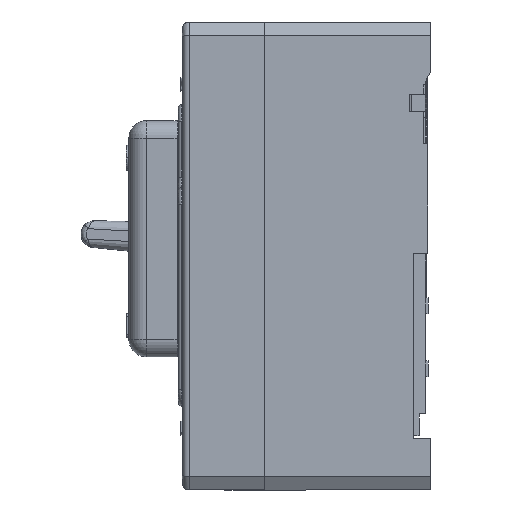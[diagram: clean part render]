
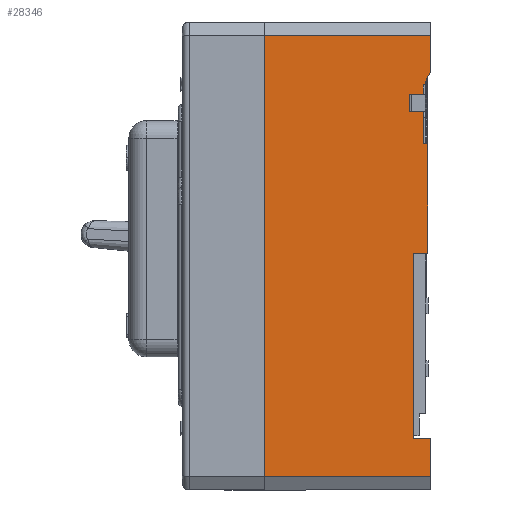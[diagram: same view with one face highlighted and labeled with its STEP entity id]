
A CAD part, left-side view. The second image highlights one B-rep face of the part: STEP entity #28346.
In plain terms, the highlighted planar face has unit normal (-1, 0, 0).
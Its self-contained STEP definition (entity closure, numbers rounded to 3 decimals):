
#1372 = DIRECTION ( 'NONE',  ( 0., 1., 0. ) ) ;
#1373 = VECTOR ( 'NONE', #1372, 1000. ) ;
#1374 = CARTESIAN_POINT ( 'NONE',  ( -63.043, 35.756, 1. ) ) ;
#1376 = LINE ( 'NONE', #1374, #1373 ) ;
#1392 = CARTESIAN_POINT ( 'NONE',  ( -63.043, 42.266, 1. ) ) ;
#1472 = CARTESIAN_POINT ( 'NONE',  ( -63.043, 42.266, -68.03 ) ) ;
#1473 = DIRECTION ( 'NONE',  ( 0., 0., -1. ) ) ;
#1474 = VECTOR ( 'NONE', #1473, 1000. ) ;
#1475 = CARTESIAN_POINT ( 'NONE',  ( -63.043, 42.266, 1. ) ) ;
#1476 = LINE ( 'NONE', #1475, #1474 ) ;
#1509 = CARTESIAN_POINT ( 'NONE',  ( -63.043, 36.896, 1. ) ) ;
#1647 = CARTESIAN_POINT ( 'NONE',  ( -63.043, 38.596, 41.91 ) ) ;
#1777 = DIRECTION ( 'NONE',  ( 0., 0., -1. ) ) ;
#1778 = VECTOR ( 'NONE', #1777, 1000. ) ;
#1779 = CARTESIAN_POINT ( 'NONE',  ( -63.043, 38.596, 53.72 ) ) ;
#1780 = LINE ( 'NONE', #1779, #1778 ) ;
#1781 = CARTESIAN_POINT ( 'NONE',  ( -63.043, 38.596, 53.72 ) ) ;
#1783 = DIRECTION ( 'NONE',  ( 0., 0., -1. ) ) ;
#1784 = VECTOR ( 'NONE', #1783, 1000. ) ;
#1785 = CARTESIAN_POINT ( 'NONE',  ( -63.043, 36.896, 41.91 ) ) ;
#1786 = LINE ( 'NONE', #1785, #1784 ) ;
#1791 = DIRECTION ( 'NONE',  ( 0., -1., 0. ) ) ;
#1792 = VECTOR ( 'NONE', #1791, 1000. ) ;
#1793 = CARTESIAN_POINT ( 'NONE',  ( -63.043, 43.916, 60.23 ) ) ;
#1794 = LINE ( 'NONE', #1793, #1792 ) ;
#1795 = CARTESIAN_POINT ( 'NONE',  ( -63.043, 38.596, 60.23 ) ) ;
#1843 = CARTESIAN_POINT ( 'NONE',  ( -63.043, 36.896, 41.91 ) ) ;
#1868 = DIRECTION ( 'NONE',  ( 0., -1., 0. ) ) ;
#1869 = VECTOR ( 'NONE', #1868, 1000. ) ;
#1870 = CARTESIAN_POINT ( 'NONE',  ( -63.043, 38.596, 41.91 ) ) ;
#1871 = LINE ( 'NONE', #1870, #1869 ) ;
#2064 = DIRECTION ( 'NONE',  ( 0., 0., -1. ) ) ;
#2065 = VECTOR ( 'NONE', #2064, 1000. ) ;
#2066 = CARTESIAN_POINT ( 'NONE',  ( -63.043, 43.916, 60.23 ) ) ;
#2067 = LINE ( 'NONE', #2066, #2065 ) ;
#2082 = DIRECTION ( 'NONE',  ( 0., -1., 0. ) ) ;
#2083 = VECTOR ( 'NONE', #2082, 1000. ) ;
#2084 = CARTESIAN_POINT ( 'NONE',  ( -63.043, 43.916, 53.72 ) ) ;
#2085 = LINE ( 'NONE', #2084, #2083 ) ;
#2086 = CARTESIAN_POINT ( 'NONE',  ( -63.043, 43.916, 60.23 ) ) ;
#2087 = CARTESIAN_POINT ( 'NONE',  ( -63.043, 43.916, 53.72 ) ) ;
#2108 = CARTESIAN_POINT ( 'NONE',  ( -63.043, 38.596, 63.82 ) ) ;
#2109 = DIRECTION ( 'NONE',  ( 0., 0., -1. ) ) ;
#2110 = VECTOR ( 'NONE', #2109, 1000. ) ;
#2111 = CARTESIAN_POINT ( 'NONE',  ( -63.043, 38.596, 63.82 ) ) ;
#2112 = LINE ( 'NONE', #2111, #2110 ) ;
#2124 = DIRECTION ( 'NONE',  ( 0., -1., 0. ) ) ;
#2125 = VECTOR ( 'NONE', #2124, 1000. ) ;
#2126 = CARTESIAN_POINT ( 'NONE',  ( -63.043, 38.596, 63.82 ) ) ;
#2127 = LINE ( 'NONE', #2126, #2125 ) ;
#2138 = CARTESIAN_POINT ( 'NONE',  ( -63.043, 37.826, 63.82 ) ) ;
#10164 = DIRECTION ( 'NONE',  ( 0., 0., -1. ) ) ;
#10165 = VECTOR ( 'NONE', #10164, 1000. ) ;
#10166 = CARTESIAN_POINT ( 'NONE',  ( -63.043, 37.826, -87.243 ) ) ;
#10167 = LINE ( 'NONE', #10166, #10165 ) ;
#10355 = EDGE_CURVE ( 'NONE', #21392, #28157, #20533, .T. ) ;
#11112 = CARTESIAN_POINT ( 'NONE',  ( -63.043, 37.826, 65.225 ) ) ;
#11441 = CARTESIAN_POINT ( 'NONE',  ( -63.043, 35.756, 68.81 ) ) ;
#11442 = DIRECTION ( 'NONE',  ( 0., 0.5, -0.866 ) ) ;
#11443 = VECTOR ( 'NONE', #11442, 1000. ) ;
#11444 = CARTESIAN_POINT ( 'NONE',  ( -63.043, 103.329, -48.229 ) ) ;
#11445 = LINE ( 'NONE', #11444, #11443 ) ;
#12273 = CARTESIAN_POINT ( 'NONE',  ( -63.043, 97.826, 82.242 ) ) ;
#12274 = DIRECTION ( 'NONE',  ( 0., 1., 0. ) ) ;
#12275 = VECTOR ( 'NONE', #12274, 1000. ) ;
#12276 = CARTESIAN_POINT ( 'NONE',  ( -63.043, 35.756, 82.242 ) ) ;
#12277 = LINE ( 'NONE', #12276, #12275 ) ;
#12278 = CARTESIAN_POINT ( 'NONE',  ( -63.043, 35.756, 82.242 ) ) ;
#12279 = DIRECTION ( 'NONE',  ( 0., 0., 1. ) ) ;
#12280 = VECTOR ( 'NONE', #12279, 1000. ) ;
#12281 = CARTESIAN_POINT ( 'NONE',  ( -63.043, 35.756, -87.243 ) ) ;
#12282 = LINE ( 'NONE', #12281, #12280 ) ;
#12320 = DIRECTION ( 'NONE',  ( 0., 0., 1. ) ) ;
#12321 = VECTOR ( 'NONE', #12320, 1000. ) ;
#12322 = CARTESIAN_POINT ( 'NONE',  ( -63.043, 35.756, -87.243 ) ) ;
#12323 = LINE ( 'NONE', #12322, #12321 ) ;
#12324 = CARTESIAN_POINT ( 'NONE',  ( -63.043, 35.756, -68.03 ) ) ;
#12591 = DIRECTION ( 'NONE',  ( 0., 0., 1. ) ) ;
#12592 = DIRECTION ( 'NONE',  ( -1., 0., 0. ) ) ;
#12593 = CARTESIAN_POINT ( 'NONE',  ( -63.043, 35.756, -87.243 ) ) ;
#12594 = AXIS2_PLACEMENT_3D ( 'NONE', #12593, #12592, #12591 ) ;
#12595 = PLANE ( 'NONE',  #12594 ) ;
#12596 = FACE_OUTER_BOUND ( 'NONE', #28347, .T. ) ;
#12792 = VECTOR ( 'NONE', #12901, 1000. ) ;
#12794 = CARTESIAN_POINT ( 'NONE',  ( -63.043, 35.756, -68.03 ) ) ;
#12797 = LINE ( 'NONE', #12794, #12792 ) ;
#12901 = DIRECTION ( 'NONE',  ( 0., -1., 0. ) ) ;
#20530 = DIRECTION ( 'NONE',  ( 0., 0., 1. ) ) ;
#20531 = VECTOR ( 'NONE', #20530, 1000. ) ;
#20532 = CARTESIAN_POINT ( 'NONE',  ( -63.043, 97.826, -87.243 ) ) ;
#20533 = LINE ( 'NONE', #20532, #20531 ) ;
#21390 = VERTEX_POINT ( 'NONE', #37524 ) ;
#21392 = VERTEX_POINT ( 'NONE', #37522 ) ;
#21525 = EDGE_CURVE ( 'NONE', #21392, #21390, #37928, .T. ) ;
#22215 = EDGE_CURVE ( 'NONE', #22288, #22246, #1376, .T. ) ;
#22246 = VERTEX_POINT ( 'NONE', #1392 ) ;
#22248 = EDGE_CURVE ( 'NONE', #22246, #22249, #1476, .T. ) ;
#22249 = VERTEX_POINT ( 'NONE', #1472 ) ;
#22288 = VERTEX_POINT ( 'NONE', #1509 ) ;
#22347 = VERTEX_POINT ( 'NONE', #1647 ) ;
#22414 = VERTEX_POINT ( 'NONE', #1781 ) ;
#22416 = EDGE_CURVE ( 'NONE', #22414, #22347, #1780, .T. ) ;
#22436 = VERTEX_POINT ( 'NONE', #1795 ) ;
#22438 = EDGE_CURVE ( 'NONE', #22620, #22436, #1794, .T. ) ;
#22441 = EDGE_CURVE ( 'NONE', #22444, #22288, #1786, .T. ) ;
#22444 = VERTEX_POINT ( 'NONE', #1843 ) ;
#22471 = EDGE_CURVE ( 'NONE', #22347, #22444, #1871, .T. ) ;
#22597 = EDGE_CURVE ( 'NONE', #22620, #22615, #2067, .T. ) ;
#22615 = VERTEX_POINT ( 'NONE', #2087 ) ;
#22620 = VERTEX_POINT ( 'NONE', #2086 ) ;
#22623 = EDGE_CURVE ( 'NONE', #22615, #22414, #2085, .T. ) ;
#22633 = EDGE_CURVE ( 'NONE', #22642, #22675, #2127, .T. ) ;
#22641 = EDGE_CURVE ( 'NONE', #22642, #22436, #2112, .T. ) ;
#22642 = VERTEX_POINT ( 'NONE', #2108 ) ;
#22675 = VERTEX_POINT ( 'NONE', #2138 ) ;
#27024 = EDGE_CURVE ( 'NONE', #27425, #22675, #10167, .T. ) ;
#27425 = VERTEX_POINT ( 'NONE', #11112 ) ;
#27612 = EDGE_CURVE ( 'NONE', #27613, #27425, #11445, .T. ) ;
#27613 = VERTEX_POINT ( 'NONE', #11441 ) ;
#27855 = ORIENTED_EDGE ( 'NONE', *, *, #10355, .F. ) ;
#28152 = ORIENTED_EDGE ( 'NONE', *, *, #28153, .T. ) ;
#28153 = EDGE_CURVE ( 'NONE', #27613, #28154, #12282, .T. ) ;
#28154 = VERTEX_POINT ( 'NONE', #12278 ) ;
#28155 = ORIENTED_EDGE ( 'NONE', *, *, #28156, .T. ) ;
#28156 = EDGE_CURVE ( 'NONE', #28154, #28157, #12277, .T. ) ;
#28157 = VERTEX_POINT ( 'NONE', #12273 ) ;
#28167 = VERTEX_POINT ( 'NONE', #12324 ) ;
#28170 = EDGE_CURVE ( 'NONE', #21390, #28167, #12323, .T. ) ;
#28182 = ORIENTED_EDGE ( 'NONE', *, *, #22471, .F. ) ;
#28183 = ORIENTED_EDGE ( 'NONE', *, *, #22416, .F. ) ;
#28184 = ORIENTED_EDGE ( 'NONE', *, *, #22623, .F. ) ;
#28185 = ORIENTED_EDGE ( 'NONE', *, *, #22597, .F. ) ;
#28186 = ORIENTED_EDGE ( 'NONE', *, *, #22438, .T. ) ;
#28346 = ADVANCED_FACE ( 'NONE', ( #12596 ), #12595, .T. ) ;
#28347 = EDGE_LOOP ( 'NONE', ( #28348, #28349, #28350, #28351, #28182, #28183, #28184, #28185, #28186, #28474, #28475, #28477, #28551, #28152, #28155, #27855, #38747, #38748 ) ) ;
#28348 = ORIENTED_EDGE ( 'NONE', *, *, #28427, .F. ) ;
#28349 = ORIENTED_EDGE ( 'NONE', *, *, #22248, .F. ) ;
#28350 = ORIENTED_EDGE ( 'NONE', *, *, #22215, .F. ) ;
#28351 = ORIENTED_EDGE ( 'NONE', *, *, #22441, .F. ) ;
#28427 = EDGE_CURVE ( 'NONE', #22249, #28167, #12797, .T. ) ;
#28474 = ORIENTED_EDGE ( 'NONE', *, *, #22641, .F. ) ;
#28475 = ORIENTED_EDGE ( 'NONE', *, *, #22633, .T. ) ;
#28477 = ORIENTED_EDGE ( 'NONE', *, *, #27024, .F. ) ;
#28551 = ORIENTED_EDGE ( 'NONE', *, *, #27612, .F. ) ;
#37522 = CARTESIAN_POINT ( 'NONE',  ( -63.043, 97.826, -82.243 ) ) ;
#37524 = CARTESIAN_POINT ( 'NONE',  ( -63.043, 35.756, -82.243 ) ) ;
#37925 = DIRECTION ( 'NONE',  ( 0., -1., 0. ) ) ;
#37926 = VECTOR ( 'NONE', #37925, 1000. ) ;
#37927 = CARTESIAN_POINT ( 'NONE',  ( -63.043, 35.756, -82.243 ) ) ;
#37928 = LINE ( 'NONE', #37927, #37926 ) ;
#38747 = ORIENTED_EDGE ( 'NONE', *, *, #21525, .T. ) ;
#38748 = ORIENTED_EDGE ( 'NONE', *, *, #28170, .T. ) ;
